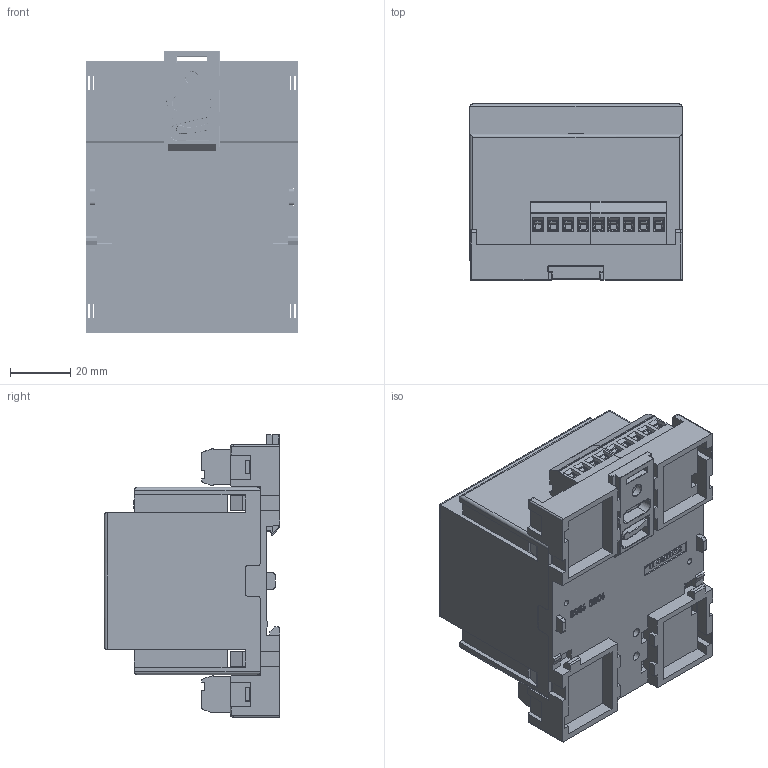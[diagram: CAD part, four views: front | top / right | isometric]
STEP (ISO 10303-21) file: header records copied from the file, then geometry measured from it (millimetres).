
FILE_DESCRIPTION (( 'STEP AP214' ), '1' );
FILE_NAME ('12460-1900-00_FRMU_3D.STEP', '2014-05-09T06:46:56', ( '' ), ( '' ), 'SwSTEP 2.0', 'SolidWorks 2014', '' );
FILE_SCHEMA (( 'AUTOMOTIVE_DESIGN' ));
Length unit declared in the file: millimetre
Products named in the file (11): V4_Frontplatte; 1080 1960.3_3D_V4_OT; V4_Leiterplatte; 1080 1990.5_V-Riegel_3D; 1080 1950.4_3D_V4_UT; 12460-1900-00_FRMU_3D; 31137105; 31137103; 12460-1200-00_3D; 31137108; 31137104
Assembly tree (10 placements, depth 2):
  12460-1900-00_FRMU_3D
    1080 1950.4_3D_V4_UT
    1080 1990.5_V-Riegel_3D
    V4_Leiterplatte
    1080 1960.3_3D_V4_OT
    V4_Frontplatte
    31137104
    31137108
    12460-1200-00_3D
    31137103
    31137105
Bounding box: 70.5 x 58.3 x 93.79 mm (x, y, z)
Volume: 70627.6 mm3; surface area: 88224 mm2
Topology: 9 solids, 352 shells, 6534 faces, 17263 edges, 11434 vertices
Faces by surface type: plane 4892, bspline 831, cylinder 599, cone 160, torus 34, sphere 18
Full cylindrical faces by diameter (mm): 1.5 x24, 1.8 x4, 2 x22, 2.25 x20, 2.4 x20, 2.7 x20, 2.8 x1, 3 x44, 3.5 x4, 3.658 x2, 3.9 x20, 4.2 x1, 4.5 x2, 6 x2
Entity records: 228071 total; most frequent: CARTESIAN_POINT 68407, ORIENTED_EDGE 33179, DIRECTION 27834, EDGE_CURVE 16640, VECTOR 12836, LINE 12836, VERTEX_POINT 11186, AXIS2_PLACEMENT_3D 7499
